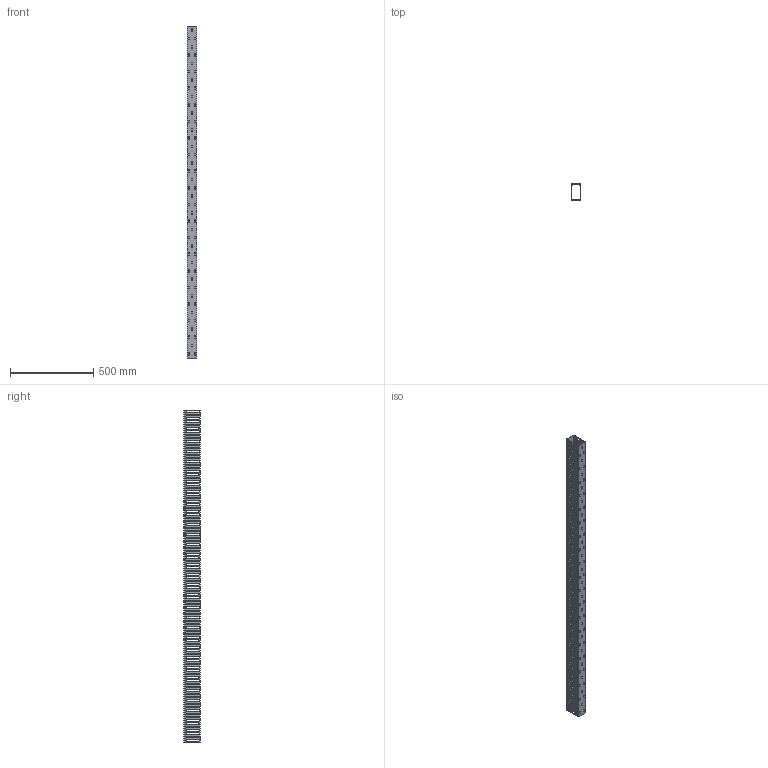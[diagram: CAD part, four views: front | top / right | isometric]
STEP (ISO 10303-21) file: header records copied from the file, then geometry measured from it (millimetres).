
FILE_DESCRIPTION (( 'STEP AP214' ), '1' );
FILE_NAME ('KD-610-20-H.STEP', '2020-02-19T01:45:26', ( '' ), ( '' ), 'SwSTEP 2.0', 'SolidWorks 2018', '' );
FILE_SCHEMA (( 'AUTOMOTIVE_DESIGN' ));
Length unit declared in the file: millimetre
Products named in the file (3): KD-610-20-H; KD-64-20-cover; KD-610-20-H-body
Assembly tree (2 placements, depth 2):
  KD-610-20-H
    KD-610-20-H-body
    KD-64-20-cover
Bounding box: 60 x 100.17 x 2000 mm (x, y, z)
Volume: 924107.5 mm3; surface area: 1185700 mm2
Topology: 2 solids, 2 shells, 1963 faces, 5877 edges, 3918 vertices
Faces by surface type: cylinder 1017, plane 946
Entity records: 67875 total; most frequent: DIRECTION 11847, CARTESIAN_POINT 11763, ORIENTED_EDGE 11754, EDGE_CURVE 5877, AXIS2_PLACEMENT_3D 4002, VERTEX_POINT 3918, LINE 3843, VECTOR 3843
